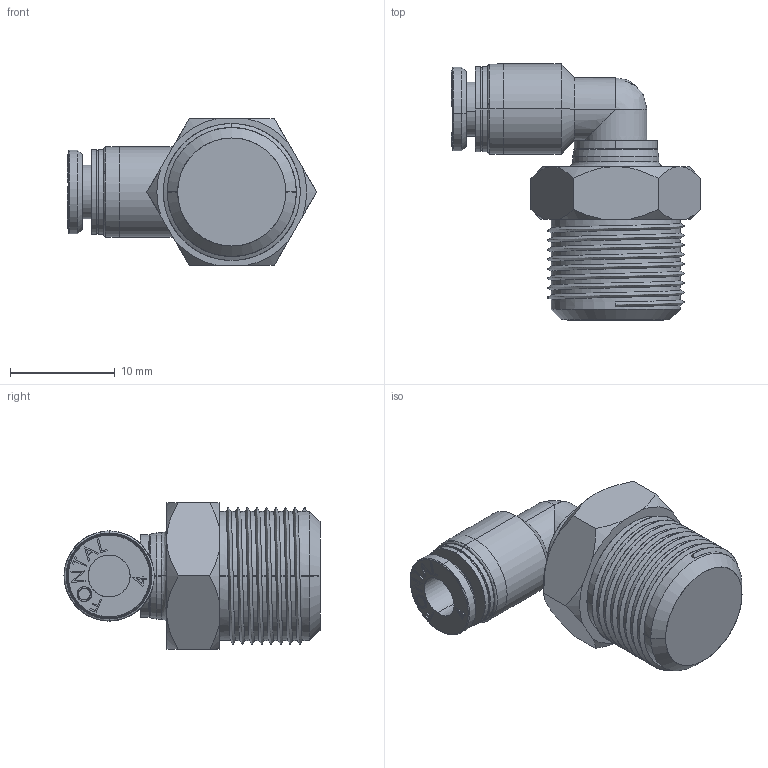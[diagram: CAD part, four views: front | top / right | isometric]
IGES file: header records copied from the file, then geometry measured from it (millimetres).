
Start section: SolidWorks IGES file using analytic representation for surfaces
Global section: file name: D:\Custom\3D繪製\ADDITIONAL\FPL\FPL4-02.IGS,1; native system: 5HSolidWorks 2014; preprocessor: SolidWorks 2014; author: Chieh_Lu; date: 160115.050536; units: millimetre
Bounding box: 23.74 x 24.4 x 14 mm (x, y, z)
Surface area: 1952.4 mm2 (no closed solid volume)
Topology: 0 solids, 0 shells, 175 faces, 2111 edges, 2106 vertices
Faces by surface type: bspline 107, revolution 68
